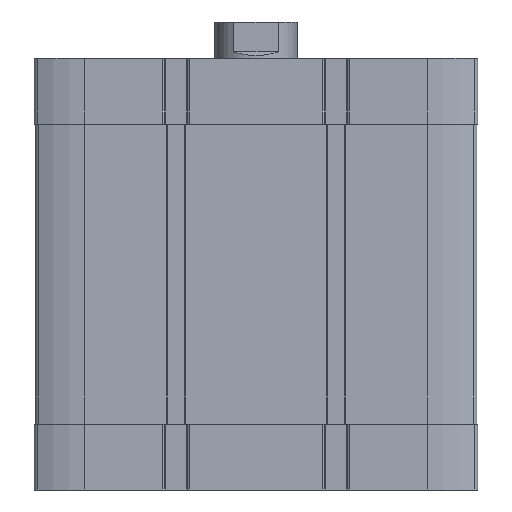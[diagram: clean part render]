
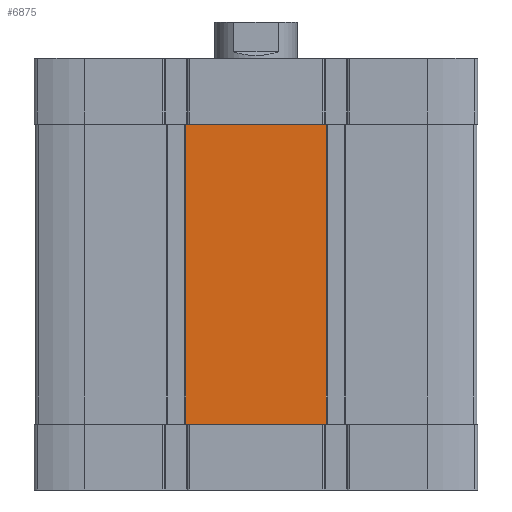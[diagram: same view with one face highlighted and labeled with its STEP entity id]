
A CAD part, front view. The second image highlights one B-rep face of the part: STEP entity #6875.
In plain terms, the highlighted planar face has unit normal (0, -1, 0).
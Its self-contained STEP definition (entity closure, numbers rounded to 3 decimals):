
#9 = DIRECTION ( 'NONE',  ( 1., 0., 0. ) ) ;
#405 = DIRECTION ( 'NONE',  ( 0., 0., 1. ) ) ;
#510 = AXIS2_PLACEMENT_3D ( 'NONE', #6749, #10933, #1710 ) ;
#741 = VECTOR ( 'NONE', #9547, 1000. ) ;
#1090 = DIRECTION ( 'NONE',  ( 1., 0., 0. ) ) ;
#1710 = DIRECTION ( 'NONE',  ( 0., 0., -1. ) ) ;
#1776 = CARTESIAN_POINT ( 'NONE',  ( 21.3, -67., -111. ) ) ;
#2045 = LINE ( 'NONE', #15196, #14511 ) ;
#2293 = ORIENTED_EDGE ( 'NONE', *, *, #8663, .F. ) ;
#2383 = CARTESIAN_POINT ( 'NONE',  ( -20.687, -67., -111. ) ) ;
#2384 = LINE ( 'NONE', #13005, #15810 ) ;
#2504 = EDGE_CURVE ( 'NONE', #4856, #5836, #13778, .T. ) ;
#2581 = CARTESIAN_POINT ( 'NONE',  ( -20.687, -67., -20. ) ) ;
#3289 = VECTOR ( 'NONE', #8125, 1000. ) ;
#3974 = EDGE_CURVE ( 'NONE', #11663, #5947, #2384, .T. ) ;
#4071 = VECTOR ( 'NONE', #13879, 1000. ) ;
#4131 = ORIENTED_EDGE ( 'NONE', *, *, #11356, .T. ) ;
#4430 = CARTESIAN_POINT ( 'NONE',  ( -21.3, -67., -20. ) ) ;
#4856 = VERTEX_POINT ( 'NONE', #14458 ) ;
#5676 = ORIENTED_EDGE ( 'NONE', *, *, #17210, .F. ) ;
#5836 = VERTEX_POINT ( 'NONE', #16394 ) ;
#5947 = VERTEX_POINT ( 'NONE', #11494 ) ;
#6308 = VERTEX_POINT ( 'NONE', #16789 ) ;
#6615 = ORIENTED_EDGE ( 'NONE', *, *, #7569, .F. ) ;
#6749 = CARTESIAN_POINT ( 'NONE',  ( -67., -67., -111. ) ) ;
#6875 = ADVANCED_FACE ( 'NONE', ( #6930 ), #9631, .T. ) ;
#6930 = FACE_OUTER_BOUND ( 'NONE', #12413, .T. ) ;
#7086 = EDGE_CURVE ( 'NONE', #7318, #11663, #8924, .T. ) ;
#7101 = CARTESIAN_POINT ( 'NONE',  ( -67., -67., -111. ) ) ;
#7318 = VERTEX_POINT ( 'NONE', #11326 ) ;
#7480 = ORIENTED_EDGE ( 'NONE', *, *, #7086, .T. ) ;
#7569 = EDGE_CURVE ( 'NONE', #7931, #6308, #13212, .T. ) ;
#7931 = VERTEX_POINT ( 'NONE', #2581 ) ;
#8125 = DIRECTION ( 'NONE',  ( 1., 0., 0. ) ) ;
#8161 = LINE ( 'NONE', #7101, #741 ) ;
#8663 = EDGE_CURVE ( 'NONE', #7318, #12778, #2045, .T. ) ;
#8732 = DIRECTION ( 'NONE',  ( 1., 0., 0. ) ) ;
#8916 = ORIENTED_EDGE ( 'NONE', *, *, #15309, .F. ) ;
#8924 = LINE ( 'NONE', #13329, #3289 ) ;
#9171 = ORIENTED_EDGE ( 'NONE', *, *, #3974, .T. ) ;
#9547 = DIRECTION ( 'NONE',  ( 1., 0., 0. ) ) ;
#9631 = PLANE ( 'NONE',  #510 ) ;
#9773 = VECTOR ( 'NONE', #9, 1000. ) ;
#10274 = LINE ( 'NONE', #11338, #14582 ) ;
#10933 = DIRECTION ( 'NONE',  ( 0., -1., 0. ) ) ;
#11326 = CARTESIAN_POINT ( 'NONE',  ( -21.3, -67., -111. ) ) ;
#11338 = CARTESIAN_POINT ( 'NONE',  ( -67., -67., -20. ) ) ;
#11356 = EDGE_CURVE ( 'NONE', #5947, #4856, #8161, .T. ) ;
#11494 = CARTESIAN_POINT ( 'NONE',  ( 20.687, -67., -111. ) ) ;
#11663 = VERTEX_POINT ( 'NONE', #2383 ) ;
#11910 = CARTESIAN_POINT ( 'NONE',  ( -21.3, -67., -20. ) ) ;
#12413 = EDGE_LOOP ( 'NONE', ( #2293, #7480, #9171, #4131, #13914, #8916, #6615, #5676 ) ) ;
#12481 = CARTESIAN_POINT ( 'NONE',  ( -67., -67., -20. ) ) ;
#12568 = LINE ( 'NONE', #12481, #4071 ) ;
#12778 = VERTEX_POINT ( 'NONE', #4430 ) ;
#13005 = CARTESIAN_POINT ( 'NONE',  ( -21.3, -67., -111. ) ) ;
#13212 = LINE ( 'NONE', #11910, #9773 ) ;
#13329 = CARTESIAN_POINT ( 'NONE',  ( -67., -67., -111. ) ) ;
#13778 = LINE ( 'NONE', #1776, #16563 ) ;
#13879 = DIRECTION ( 'NONE',  ( 1., 0., 0. ) ) ;
#13914 = ORIENTED_EDGE ( 'NONE', *, *, #2504, .T. ) ;
#13958 = DIRECTION ( 'NONE',  ( 0., 0., 1. ) ) ;
#14458 = CARTESIAN_POINT ( 'NONE',  ( 21.3, -67., -111. ) ) ;
#14511 = VECTOR ( 'NONE', #405, 1000. ) ;
#14582 = VECTOR ( 'NONE', #8732, 1000. ) ;
#15196 = CARTESIAN_POINT ( 'NONE',  ( -21.3, -67., -111. ) ) ;
#15309 = EDGE_CURVE ( 'NONE', #6308, #5836, #10274, .T. ) ;
#15810 = VECTOR ( 'NONE', #1090, 1000. ) ;
#16394 = CARTESIAN_POINT ( 'NONE',  ( 21.3, -67., -20. ) ) ;
#16563 = VECTOR ( 'NONE', #13958, 1000. ) ;
#16789 = CARTESIAN_POINT ( 'NONE',  ( 20.687, -67., -20. ) ) ;
#17210 = EDGE_CURVE ( 'NONE', #12778, #7931, #12568, .T. ) ;
